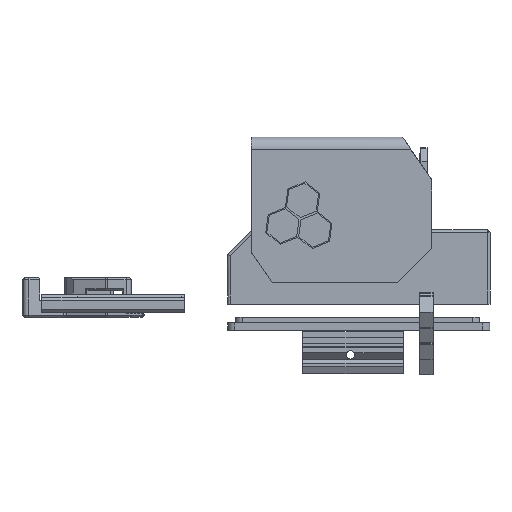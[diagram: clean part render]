
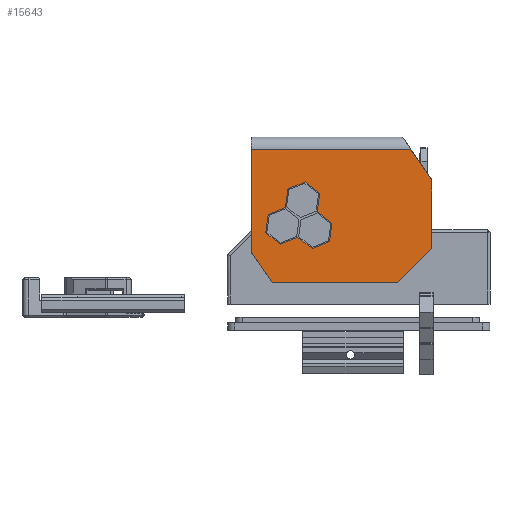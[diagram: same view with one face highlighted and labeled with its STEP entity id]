
A CAD part, left-side view. The second image highlights one B-rep face of the part: STEP entity #15643.
In plain terms, the highlighted planar face has unit normal (-1, 0, 0).
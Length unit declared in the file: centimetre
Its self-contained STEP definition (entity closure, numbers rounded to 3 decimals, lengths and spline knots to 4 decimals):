
#424=FACE_BOUND($,#2086,.T.);
#1172=FACE_OUTER_BOUND($,#2085,.T.);
#2085=EDGE_LOOP($,(#12598,#12599,#12600,#12601,#12602,#12603,#12604));
#2086=EDGE_LOOP($,(#12605,#12606,#12607,#12608,#12609,#12610,#12611,#12612,
#12613,#12614,#12615,#12616));
#3425=LINE($,#25060,#5318);
#3429=LINE($,#25068,#5322);
#3450=LINE($,#25111,#5343);
#3454=LINE($,#25118,#5347);
#3456=LINE($,#25123,#5349);
#3457=LINE($,#25125,#5350);
#3458=LINE($,#25127,#5351);
#3459=LINE($,#25129,#5352);
#3460=LINE($,#25131,#5353);
#3461=LINE($,#25133,#5354);
#3462=LINE($,#25134,#5355);
#3463=LINE($,#25136,#5356);
#3464=LINE($,#25138,#5357);
#3465=LINE($,#25140,#5358);
#3466=LINE($,#25142,#5359);
#3467=LINE($,#25144,#5360);
#3468=LINE($,#25146,#5361);
#3469=LINE($,#25148,#5362);
#3470=LINE($,#25149,#5363);
#5318=VECTOR($,#19145,0.7006);
#5322=VECTOR($,#19151,0.7006);
#5343=VECTOR($,#19186,0.7006);
#5347=VECTOR($,#19192,0.7006);
#5349=VECTOR($,#19196,1.8385);
#5350=VECTOR($,#19197,2.5862);
#5351=VECTOR($,#19198,1.4105);
#5352=VECTOR($,#19199,6.0031);
#5353=VECTOR($,#19200,3.908);
#5354=VECTOR($,#19201,1.3841);
#5355=VECTOR($,#19202,4.718);
#5356=VECTOR($,#19203,0.7006);
#5357=VECTOR($,#19204,0.7006);
#5358=VECTOR($,#19205,0.7006);
#5359=VECTOR($,#19206,0.7006);
#5360=VECTOR($,#19207,0.7006);
#5361=VECTOR($,#19208,0.7006);
#5362=VECTOR($,#19209,0.7006);
#5363=VECTOR($,#19210,0.7006);
#7102=VERTEX_POINT($,#25058);
#7103=VERTEX_POINT($,#25059);
#7106=VERTEX_POINT($,#25067);
#7120=VERTEX_POINT($,#25109);
#7121=VERTEX_POINT($,#25110);
#7124=VERTEX_POINT($,#25121);
#7125=VERTEX_POINT($,#25122);
#7126=VERTEX_POINT($,#25124);
#7127=VERTEX_POINT($,#25126);
#7128=VERTEX_POINT($,#25128);
#7129=VERTEX_POINT($,#25130);
#7130=VERTEX_POINT($,#25132);
#7131=VERTEX_POINT($,#25135);
#7132=VERTEX_POINT($,#25137);
#7133=VERTEX_POINT($,#25139);
#7134=VERTEX_POINT($,#25141);
#7135=VERTEX_POINT($,#25143);
#7136=VERTEX_POINT($,#25145);
#7137=VERTEX_POINT($,#25147);
#9029=EDGE_CURVE($,#7102,#7103,#3425,.T.);
#9033=EDGE_CURVE($,#7103,#7106,#3429,.T.);
#9054=EDGE_CURVE($,#7120,#7121,#3450,.T.);
#9058=EDGE_CURVE($,#7121,#7102,#3454,.T.);
#9060=EDGE_CURVE($,#7124,#7125,#3456,.T.);
#9061=EDGE_CURVE($,#7126,#7125,#3457,.T.);
#9062=EDGE_CURVE($,#7126,#7127,#3458,.T.);
#9063=EDGE_CURVE($,#7128,#7127,#3459,.T.);
#9064=EDGE_CURVE($,#7128,#7129,#3460,.F.);
#9065=EDGE_CURVE($,#7129,#7130,#3461,.T.);
#9066=EDGE_CURVE($,#7124,#7130,#3462,.T.);
#9067=EDGE_CURVE($,#7106,#7131,#3463,.T.);
#9068=EDGE_CURVE($,#7131,#7132,#3464,.T.);
#9069=EDGE_CURVE($,#7132,#7133,#3465,.T.);
#9070=EDGE_CURVE($,#7133,#7134,#3466,.T.);
#9071=EDGE_CURVE($,#7134,#7135,#3467,.T.);
#9072=EDGE_CURVE($,#7135,#7136,#3468,.T.);
#9073=EDGE_CURVE($,#7136,#7137,#3469,.T.);
#9074=EDGE_CURVE($,#7137,#7120,#3470,.T.);
#12598=ORIENTED_EDGE($,*,*,#9060,.T.);
#12599=ORIENTED_EDGE($,*,*,#9061,.F.);
#12600=ORIENTED_EDGE($,*,*,#9062,.T.);
#12601=ORIENTED_EDGE($,*,*,#9063,.F.);
#12602=ORIENTED_EDGE($,*,*,#9064,.T.);
#12603=ORIENTED_EDGE($,*,*,#9065,.T.);
#12604=ORIENTED_EDGE($,*,*,#9066,.F.);
#12605=ORIENTED_EDGE($,*,*,#9054,.T.);
#12606=ORIENTED_EDGE($,*,*,#9058,.T.);
#12607=ORIENTED_EDGE($,*,*,#9029,.T.);
#12608=ORIENTED_EDGE($,*,*,#9033,.T.);
#12609=ORIENTED_EDGE($,*,*,#9067,.T.);
#12610=ORIENTED_EDGE($,*,*,#9068,.T.);
#12611=ORIENTED_EDGE($,*,*,#9069,.T.);
#12612=ORIENTED_EDGE($,*,*,#9070,.T.);
#12613=ORIENTED_EDGE($,*,*,#9071,.T.);
#12614=ORIENTED_EDGE($,*,*,#9072,.T.);
#12615=ORIENTED_EDGE($,*,*,#9073,.T.);
#12616=ORIENTED_EDGE($,*,*,#9074,.T.);
#14812=PLANE($,#16620);
#15643=ADVANCED_FACE($,(#1172,#424),#14812,.F.);
#16620=AXIS2_PLACEMENT_3D($,#25120,#19194,#19195);
#19145=DIRECTION($,(0.,0.925,-0.379));
#19151=DIRECTION($,(0.,0.791,0.612));
#19186=DIRECTION($,(0.,-0.791,-0.612));
#19192=DIRECTION($,(0.,0.134,-0.991));
#19194=DIRECTION('center_axis',(1.,0.,0.));
#19195=DIRECTION('ref_axis',(0.,0.,-1.));
#19196=DIRECTION($,(0.,-0.707,0.707));
#19197=DIRECTION($,(0.,0.,-1.));
#19198=DIRECTION($,(0.,0.565,0.825));
#19199=DIRECTION($,(0.,-1.,0.));
#19200=DIRECTION($,(0.,0.,1.));
#19201=DIRECTION($,(0.,-0.565,-0.825));
#19202=DIRECTION($,(0.,1.,0.));
#19203=DIRECTION($,(0.,0.925,-0.379));
#19204=DIRECTION($,(0.,0.791,0.612));
#19205=DIRECTION($,(0.,-0.134,0.991));
#19206=DIRECTION($,(0.,-0.925,0.379));
#19207=DIRECTION($,(0.,-0.134,0.991));
#19208=DIRECTION($,(0.,-0.925,0.379));
#19209=DIRECTION($,(0.,-0.791,-0.612));
#19210=DIRECTION($,(0.,0.134,-0.991));
#25058=CARTESIAN_POINT('',(-18.3,13.5576,2.6624));
#25059=CARTESIAN_POINT('',(-18.3,14.2058,2.3965));
#25060=CARTESIAN_POINT($,(-18.3,12.3167,3.1713));
#25067=CARTESIAN_POINT('',(-18.3,14.7601,2.825));
#25068=CARTESIAN_POINT($,(-18.3,13.6396,1.9589));
#25109=CARTESIAN_POINT('',(-18.3,14.018,3.7851));
#25110=CARTESIAN_POINT('',(-18.3,13.4637,3.3567));
#25111=CARTESIAN_POINT($,(-18.3,12.6204,2.7048));
#25118=CARTESIAN_POINT($,(-18.3,13.4503,3.4559));
#25120=CARTESIAN_POINT('Origin',(-18.3,10.3881,3.85));
#25121=CARTESIAN_POINT('',(-18.3,11.,1.1));
#25122=CARTESIAN_POINT('',(-18.3,9.7,2.4));
#25123=CARTESIAN_POINT($,(-18.3,9.9095,2.1905));
#25124=CARTESIAN_POINT('',(-18.3,9.7,4.9862));
#25125=CARTESIAN_POINT($,(-18.3,9.7,3.85));
#25126=CARTESIAN_POINT('',(-18.3,10.4969,6.15));
#25127=CARTESIAN_POINT($,(-18.3,10.1004,5.571));
#25128=CARTESIAN_POINT('',(-18.3,16.5,6.15));
#25129=CARTESIAN_POINT($,(-18.3,10.3881,6.15));
#25130=CARTESIAN_POINT('',(-18.3,16.5,2.242));
#25131=CARTESIAN_POINT($,(-18.3,16.5,3.85));
#25132=CARTESIAN_POINT('',(-18.3,15.718,1.1));
#25133=CARTESIAN_POINT($,(-18.3,15.7041,1.0796));
#25134=CARTESIAN_POINT($,(-18.3,10.3881,1.1));
#25135=CARTESIAN_POINT('',(-18.3,15.4083,2.5591));
#25136=CARTESIAN_POINT($,(-18.3,12.7089,3.6662));
#25137=CARTESIAN_POINT('',(-18.3,15.9626,2.9876));
#25138=CARTESIAN_POINT($,(-18.3,14.1492,1.586));
#25139=CARTESIAN_POINT('',(-18.3,15.8688,3.6818));
#25140=CARTESIAN_POINT($,(-18.3,15.8553,3.7811));
#25141=CARTESIAN_POINT('',(-18.3,15.2206,3.9477));
#25142=CARTESIAN_POINT($,(-18.3,13.4935,4.656));
#25143=CARTESIAN_POINT('',(-18.3,15.1267,4.6419));
#25144=CARTESIAN_POINT($,(-18.3,15.1837,4.2205));
#25145=CARTESIAN_POINT('',(-18.3,14.4785,4.9078));
#25146=CARTESIAN_POINT($,(-18.3,13.2376,5.4167));
#25147=CARTESIAN_POINT('',(-18.3,13.9242,4.4794));
#25148=CARTESIAN_POINT($,(-18.3,12.9422,3.7204));
#25149=CARTESIAN_POINT($,(-18.3,13.9342,4.4051));
